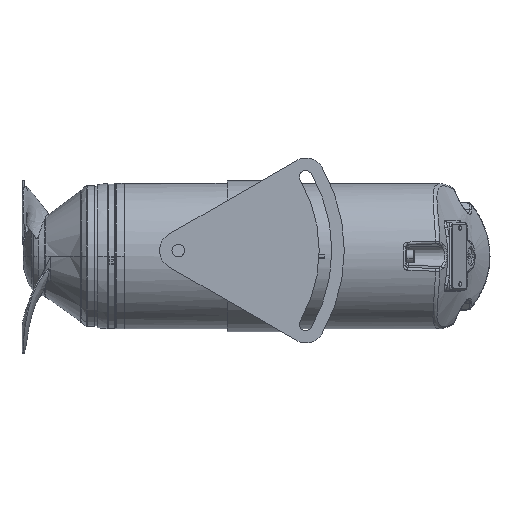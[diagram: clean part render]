
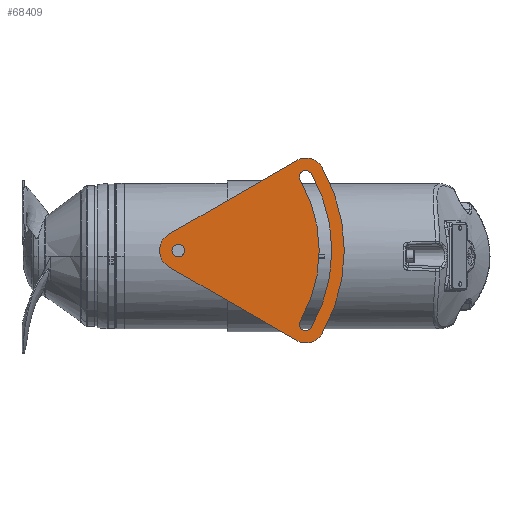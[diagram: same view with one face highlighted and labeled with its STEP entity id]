
A CAD part, front view. The second image highlights one B-rep face of the part: STEP entity #68409.
In plain terms, the highlighted planar face has unit normal (0, -1, 0).
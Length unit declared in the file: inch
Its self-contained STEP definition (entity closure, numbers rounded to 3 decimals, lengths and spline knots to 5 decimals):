
#637 = CARTESIAN_POINT ( 'NONE',  ( -1.46196, -11.66744, -1.61742 ) ) ;
#2957 = CIRCLE ( 'NONE', #4531, 0.7874 ) ;
#3481 = AXIS2_PLACEMENT_3D ( 'NONE', #81080, #32027, #89327 ) ;
#3517 = DIRECTION ( 'NONE',  ( 0., -1., 0. ) ) ;
#3533 = CIRCLE ( 'NONE', #3481, 6.9685 ) ;
#3802 = CIRCLE ( 'NONE', #84214, 0.7874 ) ;
#4531 = AXIS2_PLACEMENT_3D ( 'NONE', #52527, #3517, #60757 ) ;
#5473 = CIRCLE ( 'NONE', #58699, 0.26575 ) ;
#5500 = CARTESIAN_POINT ( 'NONE',  ( -1.00167, -11.66744, -1.88317 ) ) ;
#6010 = LINE ( 'NONE', #16278, #99569 ) ;
#6737 = DIRECTION ( 'NONE',  ( 0., -1., 0. ) ) ;
#6918 = CIRCLE ( 'NONE', #86048, 0.26575 ) ;
#7367 = VERTEX_POINT ( 'NONE', #39428 ) ;
#9471 = ORIENTED_EDGE ( 'NONE', *, *, #99417, .T. ) ;
#11162 = DIRECTION ( 'NONE',  ( 0., -1., 0. ) ) ;
#11314 = EDGE_CURVE ( 'NONE', #93795, #55823, #105101, .T. ) ;
#11369 = EDGE_CURVE ( 'NONE', #7367, #26785, #83390, .T. ) ;
#11580 = AXIS2_PLACEMENT_3D ( 'NONE', #64175, #15145, #72363 ) ;
#12792 = CARTESIAN_POINT ( 'NONE',  ( -6.5848, -11.66744, 1.34026 ) ) ;
#14973 = ORIENTED_EDGE ( 'NONE', *, *, #96192, .T. ) ;
#15145 = DIRECTION ( 'NONE',  ( 0., -1., 0. ) ) ;
#15492 = ORIENTED_EDGE ( 'NONE', *, *, #42309, .F. ) ;
#16278 = CARTESIAN_POINT ( 'NONE',  ( -6.9785, -11.66744, 2.02217 ) ) ;
#17246 = ORIENTED_EDGE ( 'NONE', *, *, #93235, .T. ) ;
#17811 = VECTOR ( 'NONE', #43183, 39.37008 ) ;
#18867 = CARTESIAN_POINT ( 'NONE',  ( -6.5848, -11.66744, 1.34026 ) ) ;
#19048 = EDGE_LOOP ( 'NONE', ( #76478, #50883, #14973, #55187, #17246, #88086, #9471 ) ) ;
#19786 = DIRECTION ( 'NONE',  ( 0., -1., 0. ) ) ;
#21040 = DIRECTION ( 'NONE',  ( -1., 0., 0. ) ) ;
#21325 = CARTESIAN_POINT ( 'NONE',  ( -6.9785, -11.66744, 2.02217 ) ) ;
#22132 = CARTESIAN_POINT ( 'NONE',  ( -1.23181, -11.66744, 4.43081 ) ) ;
#23612 = CARTESIAN_POINT ( 'NONE',  ( -6.85055, -11.66744, 1.34026 ) ) ;
#24548 = DIRECTION ( 'NONE',  ( -0.866, 0., -0.5 ) ) ;
#24585 = CARTESIAN_POINT ( 'NONE',  ( -6.5848, -11.66744, 1.34026 ) ) ;
#26785 = VERTEX_POINT ( 'NONE', #637 ) ;
#27054 = DIRECTION ( 'NONE',  ( -1., 0., 0. ) ) ;
#27250 = AXIS2_PLACEMENT_3D ( 'NONE', #68792, #19786, #77075 ) ;
#27300 = VERTEX_POINT ( 'NONE', #100013 ) ;
#27445 = DIRECTION ( 'NONE',  ( 0., -1., 0. ) ) ;
#27839 = EDGE_CURVE ( 'NONE', #77572, #78811, #2957, .T. ) ;
#30283 = DIRECTION ( 'NONE',  ( 1., 0., 0. ) ) ;
#32027 = DIRECTION ( 'NONE',  ( 0., -1., 0. ) ) ;
#32221 = CARTESIAN_POINT ( 'NONE',  ( -1.23181, -11.66744, 4.43081 ) ) ;
#32808 = DIRECTION ( 'NONE',  ( 1., 0., 0. ) ) ;
#34931 = CARTESIAN_POINT ( 'NONE',  ( -6.9785, -11.66744, 0.65835 ) ) ;
#35080 = FACE_OUTER_BOUND ( 'NONE', #19048, .T. ) ;
#37674 = CARTESIAN_POINT ( 'NONE',  ( -6.5848, -11.66744, 1.34026 ) ) ;
#38143 = VERTEX_POINT ( 'NONE', #65856 ) ;
#38591 = ORIENTED_EDGE ( 'NONE', *, *, #11369, .F. ) ;
#38792 = CARTESIAN_POINT ( 'NONE',  ( -1.23181, -11.66744, -1.7503 ) ) ;
#39379 = CARTESIAN_POINT ( 'NONE',  ( -0.5499, -11.66744, -2.144 ) ) ;
#39408 = ORIENTED_EDGE ( 'NONE', *, *, #105738, .F. ) ;
#39428 = CARTESIAN_POINT ( 'NONE',  ( -1.46196, -11.66744, 4.29793 ) ) ;
#40455 = DIRECTION ( 'NONE',  ( 1., 0., 0. ) ) ;
#42309 = EDGE_CURVE ( 'NONE', #66262, #27300, #50098, .T. ) ;
#43183 = DIRECTION ( 'NONE',  ( 0.866, 0., -0.5 ) ) ;
#44132 = CARTESIAN_POINT ( 'NONE',  ( -1.62551, -11.66744, -2.43221 ) ) ;
#45482 = AXIS2_PLACEMENT_3D ( 'NONE', #12792, #70001, #21040 ) ;
#45943 = DIRECTION ( 'NONE',  ( 1., 0., 0. ) ) ;
#46092 = CARTESIAN_POINT ( 'NONE',  ( -6.9785, -11.66744, 0.65835 ) ) ;
#47029 = DIRECTION ( 'NONE',  ( 1., 0., 0. ) ) ;
#48267 = EDGE_CURVE ( 'NONE', #96507, #52967, #93598, .T. ) ;
#50098 = CIRCLE ( 'NONE', #72452, 0.26575 ) ;
#50883 = ORIENTED_EDGE ( 'NONE', *, *, #27839, .T. ) ;
#51616 = EDGE_CURVE ( 'NONE', #27300, #66262, #75831, .T. ) ;
#52527 = CARTESIAN_POINT ( 'NONE',  ( -6.5848, -11.66744, 1.34026 ) ) ;
#52967 = VERTEX_POINT ( 'NONE', #90530 ) ;
#55187 = ORIENTED_EDGE ( 'NONE', *, *, #11314, .T. ) ;
#55790 = CARTESIAN_POINT ( 'NONE',  ( -1.23181, -11.66744, 4.43081 ) ) ;
#55823 = VERTEX_POINT ( 'NONE', #39379 ) ;
#56115 = VERTEX_POINT ( 'NONE', #100921 ) ;
#56841 = FACE_BOUND ( 'NONE', #61676, .T. ) ;
#58699 = AXIS2_PLACEMENT_3D ( 'NONE', #38792, #96114, #47029 ) ;
#58788 = LINE ( 'NONE', #34931, #17811 ) ;
#60177 = CARTESIAN_POINT ( 'NONE',  ( -1.23181, -11.66744, -1.7503 ) ) ;
#60757 = DIRECTION ( 'NONE',  ( 1., 0., 0. ) ) ;
#61676 = EDGE_LOOP ( 'NONE', ( #38591, #101886, #102356, #75105, #79293, #39408 ) ) ;
#61976 = FACE_BOUND ( 'NONE', #73753, .T. ) ;
#62716 = CARTESIAN_POINT ( 'NONE',  ( -7.3722, -11.66744, 1.34026 ) ) ;
#62767 = EDGE_CURVE ( 'NONE', #89212, #77572, #72219, .T. ) ;
#63924 = AXIS2_PLACEMENT_3D ( 'NONE', #76546, #27445, #84801 ) ;
#64055 = DIRECTION ( 'NONE',  ( 1., 0., 0. ) ) ;
#64175 = CARTESIAN_POINT ( 'NONE',  ( -6.5848, -11.66744, 1.34026 ) ) ;
#65191 = AXIS2_PLACEMENT_3D ( 'NONE', #32221, #89522, #40455 ) ;
#65856 = CARTESIAN_POINT ( 'NONE',  ( -1.62551, -11.66744, 5.11272 ) ) ;
#66262 = VERTEX_POINT ( 'NONE', #23612 ) ;
#66748 = AXIS2_PLACEMENT_3D ( 'NONE', #60177, #11162, #68428 ) ;
#68409 = ADVANCED_FACE ( 'NONE', ( #56841, #35080, #61976 ), #104748, .T. ) ;
#68428 = DIRECTION ( 'NONE',  ( 1., 0., 0. ) ) ;
#68437 = AXIS2_PLACEMENT_3D ( 'NONE', #18867, #76157, #27054 ) ;
#68792 = CARTESIAN_POINT ( 'NONE',  ( -6.5848, -11.66744, 1.34026 ) ) ;
#70001 = DIRECTION ( 'NONE',  ( 0., 1., 0. ) ) ;
#72219 = CIRCLE ( 'NONE', #27250, 0.7874 ) ;
#72363 = DIRECTION ( 'NONE',  ( 1., 0., 0. ) ) ;
#72452 = AXIS2_PLACEMENT_3D ( 'NONE', #24585, #81875, #32808 ) ;
#73753 = EDGE_LOOP ( 'NONE', ( #15492, #87716 ) ) ;
#74260 = CIRCLE ( 'NONE', #65191, 0.26575 ) ;
#75105 = ORIENTED_EDGE ( 'NONE', *, *, #48267, .F. ) ;
#75231 = EDGE_CURVE ( 'NONE', #52967, #99707, #74260, .T. ) ;
#75831 = CIRCLE ( 'NONE', #105651, 0.26575 ) ;
#76157 = DIRECTION ( 'NONE',  ( 0., -1., 0. ) ) ;
#76478 = ORIENTED_EDGE ( 'NONE', *, *, #62767, .T. ) ;
#76546 = CARTESIAN_POINT ( 'NONE',  ( -1.23181, -11.66744, -1.7503 ) ) ;
#77075 = DIRECTION ( 'NONE',  ( 1., 0., 0. ) ) ;
#77572 = VERTEX_POINT ( 'NONE', #62716 ) ;
#78811 = VERTEX_POINT ( 'NONE', #46092 ) ;
#79229 = EDGE_CURVE ( 'NONE', #56115, #38143, #3802, .T. ) ;
#79293 = ORIENTED_EDGE ( 'NONE', *, *, #101725, .F. ) ;
#79397 = DIRECTION ( 'NONE',  ( 0., -1., 0. ) ) ;
#81080 = CARTESIAN_POINT ( 'NONE',  ( -6.5848, -11.66744, 1.34026 ) ) ;
#81875 = DIRECTION ( 'NONE',  ( 0., -1., 0. ) ) ;
#83390 = CIRCLE ( 'NONE', #45482, 5.91535 ) ;
#84214 = AXIS2_PLACEMENT_3D ( 'NONE', #22132, #79397, #30283 ) ;
#84801 = DIRECTION ( 'NONE',  ( -1., 0., 0. ) ) ;
#86048 = AXIS2_PLACEMENT_3D ( 'NONE', #55790, #6737, #64055 ) ;
#86415 = CARTESIAN_POINT ( 'NONE',  ( -1.49756, -11.66744, -1.7503 ) ) ;
#87716 = ORIENTED_EDGE ( 'NONE', *, *, #51616, .F. ) ;
#88086 = ORIENTED_EDGE ( 'NONE', *, *, #79229, .T. ) ;
#89212 = VERTEX_POINT ( 'NONE', #21325 ) ;
#89277 = CARTESIAN_POINT ( 'NONE',  ( -1.49756, -11.66744, 4.43081 ) ) ;
#89327 = DIRECTION ( 'NONE',  ( 1., 0., 0. ) ) ;
#89522 = DIRECTION ( 'NONE',  ( 0., -1., 0. ) ) ;
#90530 = CARTESIAN_POINT ( 'NONE',  ( -1.00167, -11.66744, 4.56368 ) ) ;
#93235 = EDGE_CURVE ( 'NONE', #55823, #56115, #3533, .T. ) ;
#93598 = CIRCLE ( 'NONE', #68437, 6.44685 ) ;
#93795 = VERTEX_POINT ( 'NONE', #44132 ) ;
#94021 = CIRCLE ( 'NONE', #66748, 0.26575 ) ;
#94965 = DIRECTION ( 'NONE',  ( 0., -1., 0. ) ) ;
#96114 = DIRECTION ( 'NONE',  ( 0., -1., 0. ) ) ;
#96192 = EDGE_CURVE ( 'NONE', #78811, #93795, #58788, .T. ) ;
#96507 = VERTEX_POINT ( 'NONE', #5500 ) ;
#96898 = VERTEX_POINT ( 'NONE', #86415 ) ;
#99417 = EDGE_CURVE ( 'NONE', #38143, #89212, #6010, .T. ) ;
#99569 = VECTOR ( 'NONE', #24548, 39.37008 ) ;
#99707 = VERTEX_POINT ( 'NONE', #89277 ) ;
#100013 = CARTESIAN_POINT ( 'NONE',  ( -6.31906, -11.66744, 1.34026 ) ) ;
#100284 = EDGE_CURVE ( 'NONE', #99707, #7367, #6918, .T. ) ;
#100921 = CARTESIAN_POINT ( 'NONE',  ( -0.5499, -11.66744, 4.82451 ) ) ;
#101725 = EDGE_CURVE ( 'NONE', #96898, #96507, #5473, .T. ) ;
#101886 = ORIENTED_EDGE ( 'NONE', *, *, #100284, .F. ) ;
#102356 = ORIENTED_EDGE ( 'NONE', *, *, #75231, .F. ) ;
#104748 = PLANE ( 'NONE',  #11580 ) ;
#105101 = CIRCLE ( 'NONE', #63924, 0.7874 ) ;
#105651 = AXIS2_PLACEMENT_3D ( 'NONE', #37674, #94965, #45943 ) ;
#105738 = EDGE_CURVE ( 'NONE', #26785, #96898, #94021, .T. ) ;
